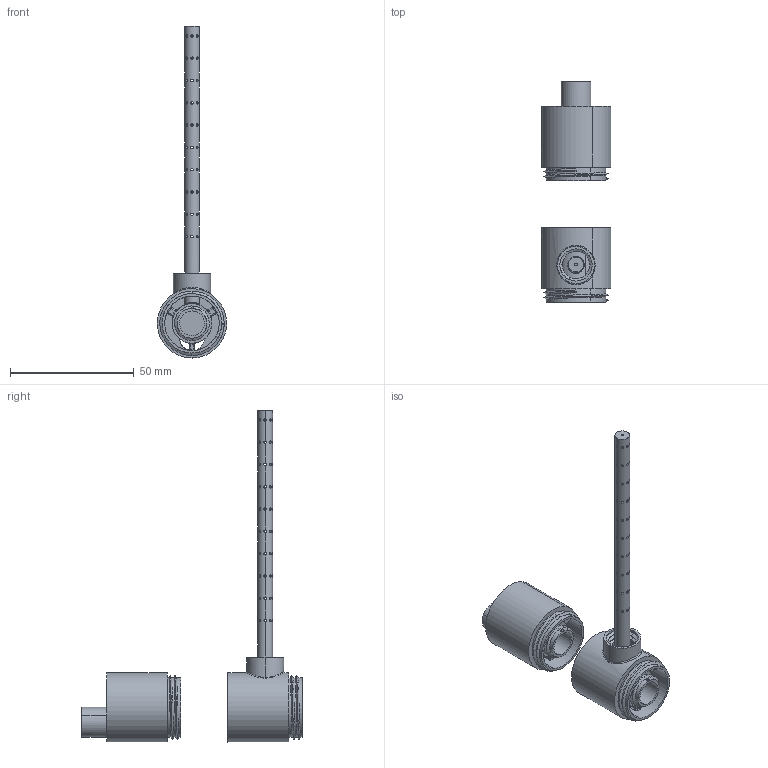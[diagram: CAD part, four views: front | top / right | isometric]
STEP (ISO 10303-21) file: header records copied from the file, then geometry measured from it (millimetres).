
FILE_DESCRIPTION(/* description */ (''),/* implementation_level */ '2;1');
FILE_NAME(/* name */ 'test.stp',/* time_stamp */ '2018-01-29T11:01:05+01:00',/* author */ (''),/* organization */ (''),/* preprocessor_version */ 'ST-DEVELOPER v16',/* originating_system */ 'SIEMENS PLM Software NX 11.0',/* authorisation */ '');
FILE_SCHEMA (('AUTOMOTIVE_DESIGN { 1 0 10303 214 3 1 1 1 }'));
Length unit declared in the file: millimetre
Products named in the file (5): PartBody_2__id9_x_t; PartBody_id17_x_t; sortie_id6_x_t; sortie_id14_x_t; sortie_x_t
Assembly tree (4 placements, depth 3):
  sortie_x_t
    sortie_id14_x_t
      PartBody_id17_x_t
    sortie_id6_x_t
      PartBody_2__id9_x_t
Bounding box: 27.95 x 89 x 133.99 mm (x, y, z)
Volume: 20456.2 mm3; surface area: 20585.7 mm2
Topology: 2 solids, 2 shells, 562 faces, 1800 edges, 1208 vertices
Faces by surface type: cylinder 281, bspline 197, plane 60, torus 24
Entity records: 33828 total; most frequent: CARTESIAN_POINT 21678, ORIENTED_EDGE 3594, EDGE_CURVE 1797, B_SPLINE_CURVE_WITH_KNOTS 1797, VERTEX_POINT 1208, DIRECTION 740, EDGE_LOOP 713, ADVANCED_FACE 561
